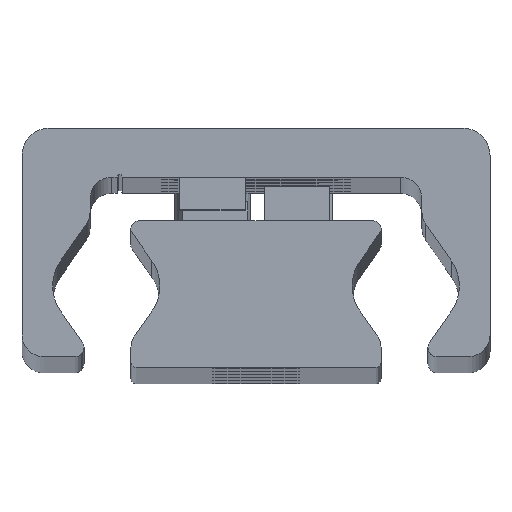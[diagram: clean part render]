
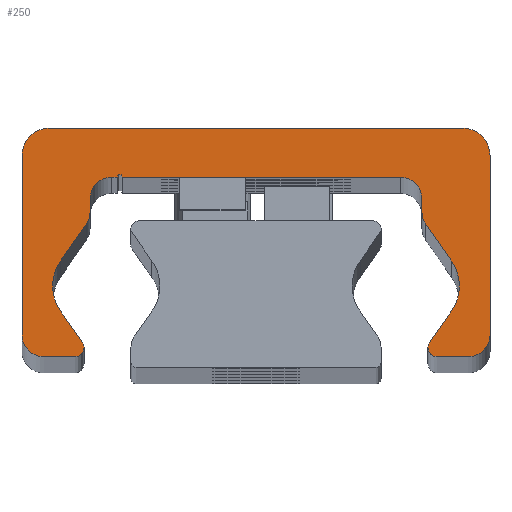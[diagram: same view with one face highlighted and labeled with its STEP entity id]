
A CAD part, top view. The second image highlights one B-rep face of the part: STEP entity #250.
In plain terms, the highlighted planar face has unit normal (0, 0, 1).
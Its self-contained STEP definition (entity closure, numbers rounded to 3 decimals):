
#250=ADVANCED_FACE('',(#672),#673,.T.);
#672=FACE_OUTER_BOUND('',#1095,.T.);
#673=PLANE('',#1096);
#1095=EDGE_LOOP('',(#2530,#2531,#2532,#2533,#2534,#2535,#2536,#2537,#2538,#2539,#2540,#2541,#2542,#2543,#2544,#2545,#2546,#2547,#2548,#2549,#2550,#2551,#2552,#2553,#2554,#2555,#2556,#2557,#2558,#2559));
#1096=AXIS2_PLACEMENT_3D('',#2560,#2561,#2562);
#2530=ORIENTED_EDGE('',*,*,#2849,.F.);
#2531=ORIENTED_EDGE('',*,*,#3062,.F.);
#2532=ORIENTED_EDGE('',*,*,#2835,.F.);
#2533=ORIENTED_EDGE('',*,*,#3061,.F.);
#2534=ORIENTED_EDGE('',*,*,#3057,.F.);
#2535=ORIENTED_EDGE('',*,*,#3054,.F.);
#2536=ORIENTED_EDGE('',*,*,#3051,.F.);
#2537=ORIENTED_EDGE('',*,*,#3048,.F.);
#2538=ORIENTED_EDGE('',*,*,#3045,.F.);
#2539=ORIENTED_EDGE('',*,*,#3042,.F.);
#2540=ORIENTED_EDGE('',*,*,#3039,.F.);
#2541=ORIENTED_EDGE('',*,*,#3036,.F.);
#2542=ORIENTED_EDGE('',*,*,#3033,.F.);
#2543=ORIENTED_EDGE('',*,*,#3030,.F.);
#2544=ORIENTED_EDGE('',*,*,#2841,.F.);
#2545=ORIENTED_EDGE('',*,*,#3028,.F.);
#2546=ORIENTED_EDGE('',*,*,#2843,.F.);
#2547=ORIENTED_EDGE('',*,*,#3027,.F.);
#2548=ORIENTED_EDGE('',*,*,#3023,.F.);
#2549=ORIENTED_EDGE('',*,*,#3020,.F.);
#2550=ORIENTED_EDGE('',*,*,#3017,.F.);
#2551=ORIENTED_EDGE('',*,*,#3014,.F.);
#2552=ORIENTED_EDGE('',*,*,#3011,.F.);
#2553=ORIENTED_EDGE('',*,*,#3008,.F.);
#2554=ORIENTED_EDGE('',*,*,#3005,.F.);
#2555=ORIENTED_EDGE('',*,*,#3002,.F.);
#2556=ORIENTED_EDGE('',*,*,#2999,.F.);
#2557=ORIENTED_EDGE('',*,*,#2996,.F.);
#2558=ORIENTED_EDGE('',*,*,#2993,.F.);
#2559=ORIENTED_EDGE('',*,*,#2990,.F.);
#2560=CARTESIAN_POINT('',(-0.023,14.187,850.0));
#2561=DIRECTION('',(0.0,0.0,1.0));
#2562=DIRECTION('',(1.0,0.0,0.0));
#2835=EDGE_CURVE('',#3446,#3449,#3450,.T.);
#2841=EDGE_CURVE('',#3459,#3455,#3461,.T.);
#2843=EDGE_CURVE('',#3462,#3465,#3466,.T.);
#2849=EDGE_CURVE('',#3475,#3471,#3477,.T.);
#2990=EDGE_CURVE('',#3471,#3704,#3705,.T.);
#2993=EDGE_CURVE('',#3704,#3709,#3710,.T.);
#2996=EDGE_CURVE('',#3709,#3714,#3715,.T.);
#2999=EDGE_CURVE('',#3714,#3719,#3720,.T.);
#3002=EDGE_CURVE('',#3719,#3724,#3725,.T.);
#3005=EDGE_CURVE('',#3724,#3729,#3730,.T.);
#3008=EDGE_CURVE('',#3729,#3734,#3735,.T.);
#3011=EDGE_CURVE('',#3734,#3739,#3740,.T.);
#3014=EDGE_CURVE('',#3739,#3744,#3745,.T.);
#3017=EDGE_CURVE('',#3744,#3749,#3750,.T.);
#3020=EDGE_CURVE('',#3749,#3754,#3755,.T.);
#3023=EDGE_CURVE('',#3754,#3759,#3760,.T.);
#3027=EDGE_CURVE('',#3759,#3462,#3765,.T.);
#3028=EDGE_CURVE('',#3465,#3459,#3766,.T.);
#3030=EDGE_CURVE('',#3455,#3768,#3769,.T.);
#3033=EDGE_CURVE('',#3768,#3773,#3774,.T.);
#3036=EDGE_CURVE('',#3773,#3778,#3779,.T.);
#3039=EDGE_CURVE('',#3778,#3783,#3784,.T.);
#3042=EDGE_CURVE('',#3783,#3788,#3789,.T.);
#3045=EDGE_CURVE('',#3788,#3793,#3794,.T.);
#3048=EDGE_CURVE('',#3793,#3798,#3799,.T.);
#3051=EDGE_CURVE('',#3798,#3803,#3804,.T.);
#3054=EDGE_CURVE('',#3803,#3808,#3809,.T.);
#3057=EDGE_CURVE('',#3808,#3813,#3814,.T.);
#3061=EDGE_CURVE('',#3813,#3446,#3819,.T.);
#3062=EDGE_CURVE('',#3449,#3475,#3820,.T.);
#3446=VERTEX_POINT('',#4330);
#3449=VERTEX_POINT('',#4334);
#3450=CIRCLE('',#4335,0.85);
#3455=VERTEX_POINT('',#4341);
#3459=VERTEX_POINT('',#4346);
#3461=CIRCLE('',#4349,0.85);
#3462=VERTEX_POINT('',#4350);
#3465=VERTEX_POINT('',#4354);
#3466=CIRCLE('',#4355,4.);
#3471=VERTEX_POINT('',#4361);
#3475=VERTEX_POINT('',#4366);
#3477=CIRCLE('',#4369,4.);
#3704=VERTEX_POINT('',#4666);
#3705=CIRCLE('',#4667,4.);
#3709=VERTEX_POINT('',#4672);
#3710=LINE('',#4673,#4674);
#3714=VERTEX_POINT('',#4680);
#3715=CIRCLE('',#4681,2.);
#3719=VERTEX_POINT('',#4686);
#3720=LINE('',#4687,#4688);
#3724=VERTEX_POINT('',#4694);
#3725=CIRCLE('',#4695,2.0);
#3729=VERTEX_POINT('',#4700);
#3730=LINE('',#4701,#4702);
#3734=VERTEX_POINT('',#4708);
#3735=CIRCLE('',#4709,0.25);
#3739=VERTEX_POINT('',#4714);
#3740=LINE('',#4715,#4716);
#3744=VERTEX_POINT('',#4722);
#3745=CIRCLE('',#4723,2.0);
#3749=VERTEX_POINT('',#4728);
#3750=LINE('',#4729,#4730);
#3754=VERTEX_POINT('',#4736);
#3755=CIRCLE('',#4737,2.0);
#3759=VERTEX_POINT('',#4742);
#3760=LINE('',#4743,#4744);
#3765=CIRCLE('',#4751,4.);
#3766=LINE('',#4752,#4753);
#3768=VERTEX_POINT('',#4756);
#3769=CIRCLE('',#4757,0.85);
#3773=VERTEX_POINT('',#4762);
#3774=LINE('',#4763,#4764);
#3778=VERTEX_POINT('',#4770);
#3779=CIRCLE('',#4771,2.);
#3783=VERTEX_POINT('',#4776);
#3784=LINE('',#4777,#4778);
#3788=VERTEX_POINT('',#4784);
#3789=CIRCLE('',#4785,2.5);
#3793=VERTEX_POINT('',#4790);
#3794=LINE('',#4791,#4792);
#3798=VERTEX_POINT('',#4798);
#3799=CIRCLE('',#4799,2.5);
#3803=VERTEX_POINT('',#4804);
#3804=LINE('',#4805,#4806);
#3808=VERTEX_POINT('',#4812);
#3809=CIRCLE('',#4813,2.);
#3813=VERTEX_POINT('',#4818);
#3814=LINE('',#4819,#4820);
#3819=CIRCLE('',#4827,0.85);
#3820=LINE('',#4828,#4829);
#4330=CARTESIAN_POINT('',(15.8,1.859,850.0));
#4334=CARTESIAN_POINT('',(15.922,2.298,850.0));
#4335=AXIS2_PLACEMENT_3D('',#5295,#5296,#5297);
#4341=CARTESIAN_POINT('',(-15.8,1.859,850.0));
#4346=CARTESIAN_POINT('',(-15.922,2.298,850.0));
#4349=AXIS2_PLACEMENT_3D('',#5307,#5308,#5309);
#4350=CARTESIAN_POINT('',(-18.688,7.509,850.0));
#4354=CARTESIAN_POINT('',(-17.964,5.214,850.0));
#4355=AXIS2_PLACEMENT_3D('',#5311,#5312,#5313);
#4361=CARTESIAN_POINT('',(18.688,7.509,850.0));
#4366=CARTESIAN_POINT('',(17.964,5.214,850.0));
#4369=AXIS2_PLACEMENT_3D('',#5323,#5324,#5325);
#4666=CARTESIAN_POINT('',(17.964,9.803,850.0));
#4667=AXIS2_PLACEMENT_3D('',#5606,#5607,#5608);
#4672=CARTESIAN_POINT('',(15.612,13.163,850.0));
#4673=CARTESIAN_POINT('',(15.612,13.163,850.0));
#4674=VECTOR('',#5613,1.0);
#4680=CARTESIAN_POINT('',(15.25,14.31,850.0));
#4681=AXIS2_PLACEMENT_3D('',#5616,#5617,#5618);
#4686=CARTESIAN_POINT('',(15.25,15.509,850.0));
#4687=CARTESIAN_POINT('',(15.25,15.509,850.0));
#4688=VECTOR('',#5623,1.0);
#4694=CARTESIAN_POINT('',(13.25,17.509,850.0));
#4695=AXIS2_PLACEMENT_3D('',#5626,#5627,#5628);
#4700=CARTESIAN_POINT('',(-12.25,17.509,850.0));
#4701=CARTESIAN_POINT('',(-12.25,17.509,850.0));
#4702=VECTOR('',#5633,1.0);
#4708=CARTESIAN_POINT('',(-12.75,17.509,850.0));
#4709=AXIS2_PLACEMENT_3D('',#5636,#5637,#5638);
#4714=CARTESIAN_POINT('',(-13.25,17.509,850.0));
#4715=CARTESIAN_POINT('',(-13.25,17.509,850.0));
#4716=VECTOR('',#5643,1.0);
#4722=CARTESIAN_POINT('',(-15.25,15.509,850.0));
#4723=AXIS2_PLACEMENT_3D('',#5646,#5647,#5648);
#4728=CARTESIAN_POINT('',(-15.25,14.31,850.0));
#4729=CARTESIAN_POINT('',(-15.25,14.31,850.0));
#4730=VECTOR('',#5653,1.0);
#4736=CARTESIAN_POINT('',(-15.612,13.163,850.0));
#4737=AXIS2_PLACEMENT_3D('',#5656,#5657,#5658);
#4742=CARTESIAN_POINT('',(-17.964,9.803,850.0));
#4743=CARTESIAN_POINT('',(-17.964,9.803,850.0));
#4744=VECTOR('',#5663,1.0);
#4751=AXIS2_PLACEMENT_3D('',#5669,#5670,#5671);
#4752=CARTESIAN_POINT('',(-15.922,2.298,850.0));
#4753=VECTOR('',#5672,1.0);
#4756=CARTESIAN_POINT('',(-16.65,1.009,850.0));
#4757=AXIS2_PLACEMENT_3D('',#5674,#5675,#5676);
#4762=CARTESIAN_POINT('',(-19.5,1.009,850.0));
#4763=CARTESIAN_POINT('',(-19.5,1.009,850.0));
#4764=VECTOR('',#5681,1.0);
#4770=CARTESIAN_POINT('',(-21.5,3.009,850.0));
#4771=AXIS2_PLACEMENT_3D('',#5684,#5685,#5686);
#4776=CARTESIAN_POINT('',(-21.5,19.509,850.0));
#4777=CARTESIAN_POINT('',(-21.5,19.509,850.0));
#4778=VECTOR('',#5691,1.0);
#4784=CARTESIAN_POINT('',(-19.0,22.009,850.0));
#4785=AXIS2_PLACEMENT_3D('',#5694,#5695,#5696);
#4790=CARTESIAN_POINT('',(19.0,22.009,850.0));
#4791=CARTESIAN_POINT('',(19.0,22.009,850.0));
#4792=VECTOR('',#5701,1.0);
#4798=CARTESIAN_POINT('',(21.5,19.509,850.0));
#4799=AXIS2_PLACEMENT_3D('',#5704,#5705,#5706);
#4804=CARTESIAN_POINT('',(21.5,3.009,850.0));
#4805=CARTESIAN_POINT('',(21.5,3.009,850.0));
#4806=VECTOR('',#5711,1.0);
#4812=CARTESIAN_POINT('',(19.5,1.009,850.0));
#4813=AXIS2_PLACEMENT_3D('',#5714,#5715,#5716);
#4818=CARTESIAN_POINT('',(16.65,1.009,850.0));
#4819=CARTESIAN_POINT('',(16.65,1.009,850.0));
#4820=VECTOR('',#5721,1.0);
#4827=AXIS2_PLACEMENT_3D('',#5727,#5728,#5729);
#4828=CARTESIAN_POINT('',(17.964,5.214,850.0));
#4829=VECTOR('',#5730,1.0);
#5295=CARTESIAN_POINT('',(16.65,1.859,850.0));
#5296=DIRECTION('',(0.0,0.0,-1.0));
#5297=DIRECTION('',(1.0,0.0,0.0));
#5307=CARTESIAN_POINT('',(-16.65,1.859,850.0));
#5308=DIRECTION('',(0.0,0.0,-1.0));
#5309=DIRECTION('',(1.0,0.0,0.0));
#5311=CARTESIAN_POINT('',(-14.688,7.509,850.0));
#5312=DIRECTION('',(0.0,0.0,1.0));
#5313=DIRECTION('',(1.0,0.0,0.0));
#5323=CARTESIAN_POINT('',(14.688,7.509,850.0));
#5324=DIRECTION('',(0.0,0.0,1.0));
#5325=DIRECTION('',(1.0,0.0,0.0));
#5606=CARTESIAN_POINT('',(14.688,7.509,850.0));
#5607=DIRECTION('',(0.0,0.0,1.0));
#5608=DIRECTION('',(1.0,0.0,0.0));
#5613=DIRECTION('',(-0.574,0.819,0.0));
#5616=CARTESIAN_POINT('',(17.25,14.31,850.0));
#5617=DIRECTION('',(0.0,0.0,-1.0));
#5618=DIRECTION('',(1.0,0.0,0.0));
#5623=DIRECTION('',(0.0,1.0,0.0));
#5626=CARTESIAN_POINT('',(13.25,15.509,850.0));
#5627=DIRECTION('',(0.0,0.0,1.0));
#5628=DIRECTION('',(1.0,0.0,0.0));
#5633=DIRECTION('',(-1.0,-0.0,-0.0));
#5636=CARTESIAN_POINT('',(-12.5,17.509,850.0));
#5637=DIRECTION('',(0.0,0.0,1.0));
#5638=DIRECTION('',(1.0,0.0,0.0));
#5643=DIRECTION('',(-1.0,-0.0,-0.0));
#5646=CARTESIAN_POINT('',(-13.25,15.509,850.0));
#5647=DIRECTION('',(0.0,0.0,1.0));
#5648=DIRECTION('',(1.0,0.0,0.0));
#5653=DIRECTION('',(-0.0,-1.0,-0.0));
#5656=CARTESIAN_POINT('',(-17.25,14.31,850.0));
#5657=DIRECTION('',(0.0,0.0,-1.0));
#5658=DIRECTION('',(1.0,0.0,0.0));
#5663=DIRECTION('',(-0.574,-0.819,-0.0));
#5669=CARTESIAN_POINT('',(-14.688,7.509,850.0));
#5670=DIRECTION('',(0.0,0.0,1.0));
#5671=DIRECTION('',(1.0,0.0,0.0));
#5672=DIRECTION('',(0.574,-0.819,0.0));
#5674=CARTESIAN_POINT('',(-16.65,1.859,850.0));
#5675=DIRECTION('',(0.0,0.0,-1.0));
#5676=DIRECTION('',(1.0,0.0,0.0));
#5681=DIRECTION('',(-1.0,-0.0,-0.0));
#5684=CARTESIAN_POINT('',(-19.5,3.009,850.0));
#5685=DIRECTION('',(0.0,0.0,-1.0));
#5686=DIRECTION('',(1.0,0.0,0.0));
#5691=DIRECTION('',(0.0,1.0,0.0));
#5694=CARTESIAN_POINT('',(-19.0,19.509,850.0));
#5695=DIRECTION('',(0.0,0.0,-1.0));
#5696=DIRECTION('',(1.0,0.0,0.0));
#5701=DIRECTION('',(1.0,0.0,0.0));
#5704=CARTESIAN_POINT('',(19.0,19.509,850.0));
#5705=DIRECTION('',(0.0,0.0,-1.0));
#5706=DIRECTION('',(1.0,0.0,0.0));
#5711=DIRECTION('',(-0.0,-1.0,-0.0));
#5714=CARTESIAN_POINT('',(19.5,3.009,850.0));
#5715=DIRECTION('',(0.0,0.0,-1.0));
#5716=DIRECTION('',(1.0,0.0,0.0));
#5721=DIRECTION('',(-1.0,-0.0,-0.0));
#5727=CARTESIAN_POINT('',(16.65,1.859,850.0));
#5728=DIRECTION('',(0.0,0.0,-1.0));
#5729=DIRECTION('',(1.0,0.0,0.0));
#5730=DIRECTION('',(0.574,0.819,0.0));
